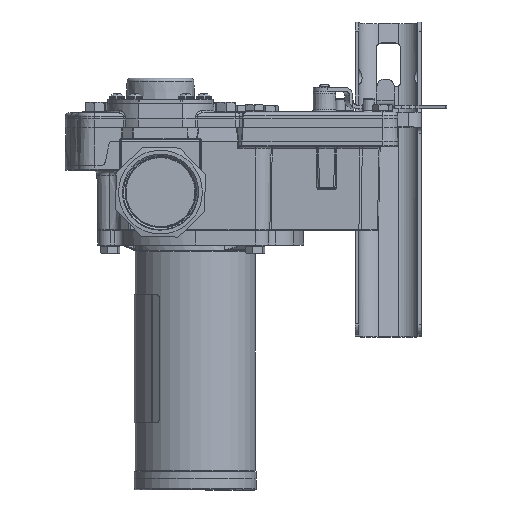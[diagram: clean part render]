
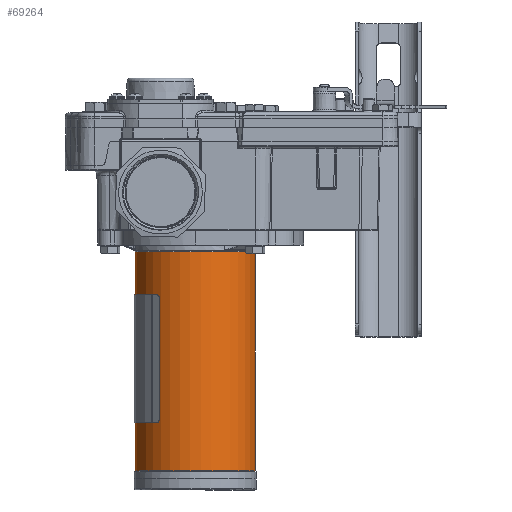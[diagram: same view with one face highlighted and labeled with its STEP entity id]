
A CAD part, front view. The second image highlights one B-rep face of the part: STEP entity #69264.
In plain terms, the highlighted cylindrical face has radius 38.976 mm (diameter 77.953 mm), a full revolution.
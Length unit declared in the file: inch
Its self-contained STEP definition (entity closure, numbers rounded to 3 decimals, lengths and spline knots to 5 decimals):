
#1810=FACE_BOUND('',#12468,.T.);
#1947=ELLIPSE('',#74015,4.48658,1.5345);
#1948=ELLIPSE('',#74017,4.48658,1.5345);
#4783=CYLINDRICAL_SURFACE('',#74021,1.5345);
#8509=FACE_OUTER_BOUND('',#12467,.T.);
#12467=EDGE_LOOP('',(#59992,#59993,#59994,#59995));
#12468=EDGE_LOOP('',(#59996,#59997,#59998,#59999,#60000,#60001,#60002));
#14209=CIRCLE('',#74008,1.5345);
#14210=CIRCLE('',#74011,1.5345);
#14211=CIRCLE('',#74013,1.5345);
#14212=CIRCLE('',#74020,1.5345);
#14213=CIRCLE('',#74022,1.5345);
#19539=LINE('',#139670,#24871);
#19545=LINE('',#139684,#24877);
#19556=LINE('',#139717,#24888);
#24871=VECTOR('',#88780,0.3937);
#24877=VECTOR('',#88792,0.3937);
#24888=VECTOR('',#88829,1.5345);
#31027=VERTEX_POINT('',#139668);
#31028=VERTEX_POINT('',#139669);
#31031=VERTEX_POINT('',#139677);
#31033=VERTEX_POINT('',#139683);
#31035=VERTEX_POINT('',#139689);
#31037=VERTEX_POINT('',#139695);
#31039=VERTEX_POINT('',#139701);
#31041=VERTEX_POINT('',#139711);
#31042=VERTEX_POINT('',#139715);
#40672=EDGE_CURVE('',#31027,#31028,#19539,.T.);
#40676=EDGE_CURVE('',#31028,#31031,#14209,.T.);
#40679=EDGE_CURVE('',#31031,#31033,#19545,.T.);
#40682=EDGE_CURVE('',#31033,#31035,#14210,.T.);
#40685=EDGE_CURVE('',#31037,#31027,#14211,.T.);
#40688=EDGE_CURVE('',#31039,#31037,#1947,.T.);
#40691=EDGE_CURVE('',#31035,#31039,#1948,.T.);
#40694=EDGE_CURVE('',#31041,#31041,#14212,.T.);
#40695=EDGE_CURVE('',#31042,#31042,#14213,.T.);
#40696=EDGE_CURVE('',#31042,#31041,#19556,.T.);
#59992=ORIENTED_EDGE('',*,*,#40695,.F.);
#59993=ORIENTED_EDGE('',*,*,#40696,.T.);
#59994=ORIENTED_EDGE('',*,*,#40694,.F.);
#59995=ORIENTED_EDGE('',*,*,#40696,.F.);
#59996=ORIENTED_EDGE('',*,*,#40682,.T.);
#59997=ORIENTED_EDGE('',*,*,#40691,.T.);
#59998=ORIENTED_EDGE('',*,*,#40688,.T.);
#59999=ORIENTED_EDGE('',*,*,#40685,.T.);
#60000=ORIENTED_EDGE('',*,*,#40672,.T.);
#60001=ORIENTED_EDGE('',*,*,#40676,.T.);
#60002=ORIENTED_EDGE('',*,*,#40679,.T.);
#69264=ADVANCED_FACE('',(#8509,#1810),#4783,.T.);
#74008=AXIS2_PLACEMENT_3D('',#139678,#88786,#88787);
#74011=AXIS2_PLACEMENT_3D('',#139690,#88797,#88798);
#74013=AXIS2_PLACEMENT_3D('',#139696,#88803,#88804);
#74015=AXIS2_PLACEMENT_3D('',#139702,#88809,#88810);
#74017=AXIS2_PLACEMENT_3D('',#139707,#88815,#88816);
#74020=AXIS2_PLACEMENT_3D('',#139713,#88823,#88824);
#74021=AXIS2_PLACEMENT_3D('',#139714,#88825,#88826);
#74022=AXIS2_PLACEMENT_3D('',#139716,#88827,#88828);
#88780=DIRECTION('',(0.,0.,-1.));
#88786=DIRECTION('center_axis',(0.,0.,
-1.));
#88787=DIRECTION('ref_axis',(-0.707,-0.707,0.));
#88792=DIRECTION('',(0.,0.,1.));
#88797=DIRECTION('center_axis',(0.,0.,
-1.));
#88798=DIRECTION('ref_axis',(-0.707,-0.707,0.));
#88803=DIRECTION('center_axis',(0.,0.,
-1.));
#88804=DIRECTION('ref_axis',(-0.707,-0.707,0.));
#88809=DIRECTION('center_axis',(-0.664,-0.664,0.342));
#88810=DIRECTION('ref_axis',(-0.242,-0.242,-0.94));
#88815=DIRECTION('center_axis',(0.664,0.664,0.342));
#88816=DIRECTION('ref_axis',(-0.242,-0.242,0.94));
#88823=DIRECTION('center_axis',(0.,0.,
-1.));
#88824=DIRECTION('ref_axis',(-0.707,-0.707,0.));
#88825=DIRECTION('center_axis',(0.,0.,
1.));
#88826=DIRECTION('ref_axis',(-0.707,-0.707,0.));
#88827=DIRECTION('center_axis',(0.,0.,
1.));
#88828=DIRECTION('ref_axis',(-0.707,-0.707,0.));
#88829=DIRECTION('',(0.,0.,-1.));
#139668=CARTESIAN_POINT('',(-1.09561,1.0744,-3.412));
#139669=CARTESIAN_POINT('',(-1.09561,1.0744,-8.653));
#139670=CARTESIAN_POINT('',(-1.09561,1.0744,-8.753));
#139677=CARTESIAN_POINT('',(-1.0744,1.09561,-8.653));
#139678=CARTESIAN_POINT('Origin',(0.,0.,
-8.653));
#139683=CARTESIAN_POINT('',(-1.0744,1.09561,-3.412));
#139684=CARTESIAN_POINT('',(-1.0744,1.09561,-8.753));
#139689=CARTESIAN_POINT('',(-1.03854,1.12965,-3.412));
#139690=CARTESIAN_POINT('Origin',(0.,0.,
-3.412));
#139695=CARTESIAN_POINT('',(-1.12965,1.03854,-3.412));
#139696=CARTESIAN_POINT('Origin',(0.,0.,
-3.412));
#139701=CARTESIAN_POINT('',(-1.08506,1.08506,-3.235));
#139702=CARTESIAN_POINT('Origin',(0.,0.,
-3.235));
#139707=CARTESIAN_POINT('Origin',(0.,0.,
-3.235));
#139711=CARTESIAN_POINT('',(1.08506,1.08506,-8.723));
#139713=CARTESIAN_POINT('Origin',(0.,0.,
-8.723));
#139714=CARTESIAN_POINT('Origin',(0.,0.,
-8.753));
#139715=CARTESIAN_POINT('',(1.08506,1.08506,-3.165));
#139716=CARTESIAN_POINT('Origin',(0.,0.,
-3.165));
#139717=CARTESIAN_POINT('',(1.08506,1.08506,-8.753));
